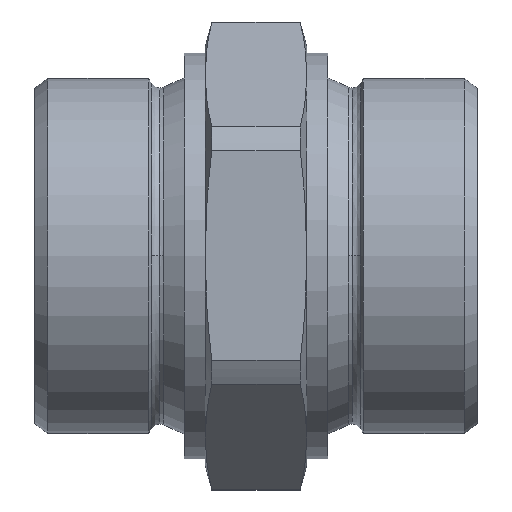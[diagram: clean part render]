
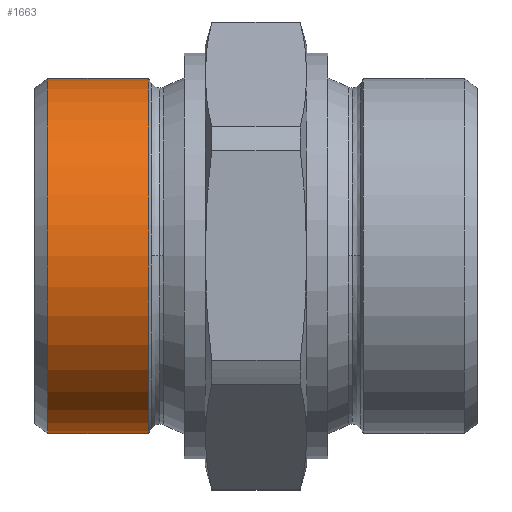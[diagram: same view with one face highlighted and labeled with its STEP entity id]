
A CAD part, top view. The second image highlights one B-rep face of the part: STEP entity #1663.
In plain terms, the highlighted cylindrical face has radius 29.715 mm (diameter 59.43 mm), a partial arc.
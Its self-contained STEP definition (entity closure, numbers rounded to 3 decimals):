
#997=CARTESIAN_POINT('',(0.,-29.715,34.857));
#998=VERTEX_POINT('',#997);
#999=CARTESIAN_POINT('',(0.,-29.715,17.983));
#1000=VERTEX_POINT('',#999);
#1001=CARTESIAN_POINT('',(0.,-29.715,34.857));
#1002=DIRECTION('',(0.0,0.0,-1.0));
#1003=VECTOR('',#1002,16.873);
#1004=LINE('',#1001,#1003);
#1005=EDGE_CURVE('',#998,#1000,#1004,.T.);
#1007=CARTESIAN_POINT('',(0.,29.715,34.857));
#1008=VERTEX_POINT('',#1007);
#1016=CARTESIAN_POINT('',(0.,29.715,17.983));
#1017=VERTEX_POINT('',#1016);
#1018=CARTESIAN_POINT('',(0.,29.715,17.983));
#1019=DIRECTION('',(0.0,0.0,1.0));
#1020=VECTOR('',#1019,16.873);
#1021=LINE('',#1018,#1020);
#1022=EDGE_CURVE('',#1017,#1008,#1021,.T.);
#1461=CARTESIAN_POINT('',(0.,0.,17.983));
#1462=DIRECTION('',(0.0,0.0,-1.0));
#1463=DIRECTION('',(0.0,-1.0,0.0));
#1464=AXIS2_PLACEMENT_3D('',#1461,#1462,#1463);
#1465=CIRCLE('',#1464,29.715);
#1466=EDGE_CURVE('',#1017,#1000,#1465,.T.);
#1640=CARTESIAN_POINT('',(0.,0.,34.857));
#1641=DIRECTION('',(0.0,0.0,-1.0));
#1642=DIRECTION('',(0.0,-1.0,0.0));
#1643=AXIS2_PLACEMENT_3D('',#1640,#1641,#1642);
#1644=CIRCLE('',#1643,29.715);
#1645=EDGE_CURVE('',#1008,#998,#1644,.T.);
#1652=CARTESIAN_POINT('',(0.,0.,26.42));
#1653=DIRECTION('',(0.,0.,-1.0));
#1654=DIRECTION('',(0.0,-1.0,0.0));
#1655=AXIS2_PLACEMENT_3D('',#1652,#1653,#1654);
#1656=CYLINDRICAL_SURFACE('',#1655,29.715);
#1657=ORIENTED_EDGE('',*,*,#1005,.T.);
#1658=ORIENTED_EDGE('',*,*,#1466,.F.);
#1659=ORIENTED_EDGE('',*,*,#1022,.T.);
#1660=ORIENTED_EDGE('',*,*,#1645,.T.);
#1661=EDGE_LOOP('',(#1657,#1658,#1659,#1660));
#1662=FACE_OUTER_BOUND('',#1661,.T.);
#1663=ADVANCED_FACE('',(#1662),#1656,.T.);
